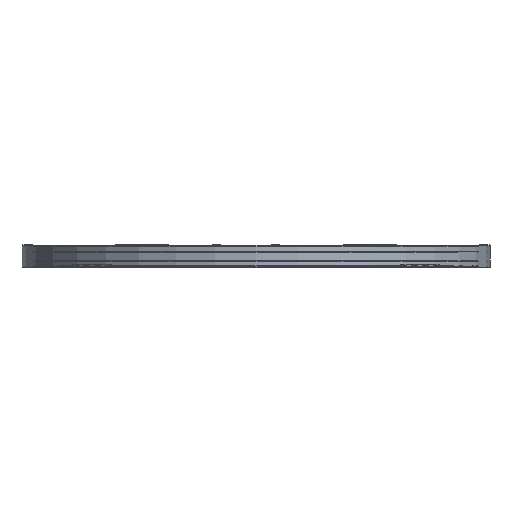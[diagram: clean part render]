
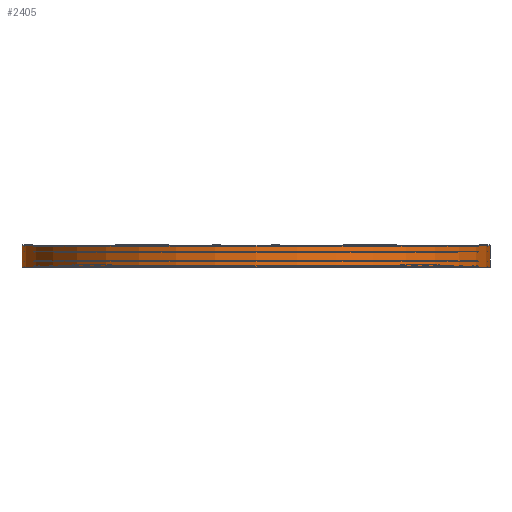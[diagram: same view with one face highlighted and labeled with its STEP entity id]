
A CAD part, front view. The second image highlights one B-rep face of the part: STEP entity #2405.
In plain terms, the highlighted cylindrical face has radius 574.5 mm (diameter 1149 mm), a full revolution.
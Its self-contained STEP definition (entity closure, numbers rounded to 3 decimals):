
#2274=CYLINDRICAL_SURFACE('',#9378,574.5);
#2405=ADVANCED_FACE('',(#3137,#3138),#2274,.T.);
#3137=FACE_BOUND('',#3321,.T.);
#3138=FACE_BOUND('',#3322,.T.);
#3321=EDGE_LOOP('',(#4006));
#3322=EDGE_LOOP('',(#4007));
#4006=ORIENTED_EDGE('',*,*,#7465,.F.);
#4007=ORIENTED_EDGE('',*,*,#7464,.T.);
#6624=VERTEX_POINT('',#12815);
#6625=VERTEX_POINT('',#12818);
#7464=EDGE_CURVE('',#6624,#6624,#8785,.T.);
#7465=EDGE_CURVE('',#6625,#6625,#8786,.T.);
#8785=CIRCLE('',#9375,574.5);
#8786=CIRCLE('',#9377,574.5);
#9375=AXIS2_PLACEMENT_3D('',#12814,#10439,#10440);
#9377=AXIS2_PLACEMENT_3D('',#12817,#10443,#10444);
#9378=AXIS2_PLACEMENT_3D('',#12819,#10445,#10446);
#10439=DIRECTION('',(0.,0.,1.));
#10440=DIRECTION('',(1.,0.,0.));
#10443=DIRECTION('',(0.,0.,1.));
#10444=DIRECTION('',(1.,0.,0.));
#10445=DIRECTION('',(0.,0.,1.));
#10446=DIRECTION('',(-1.,0.,0.));
#12814=CARTESIAN_POINT('',(0.,-561.,0.5));
#12815=CARTESIAN_POINT('',(574.5,-561.,0.5));
#12817=CARTESIAN_POINT('',(0.,-561.,53.5));
#12818=CARTESIAN_POINT('',(574.5,-561.,53.5));
#12819=CARTESIAN_POINT('',(0.,-561.,0.));
